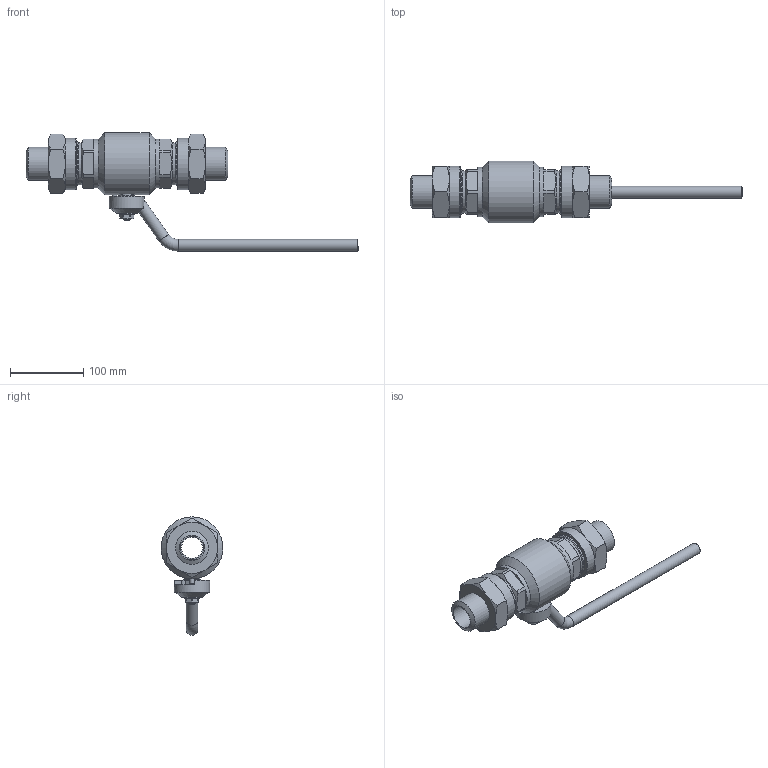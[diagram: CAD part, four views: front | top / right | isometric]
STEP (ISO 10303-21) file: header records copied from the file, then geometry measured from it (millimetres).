
FILE_DESCRIPTION(('STEP AP203'), '1');
FILE_NAME('ZARD 032.250.30.P.stp', '2013-12-06T06:30:21', ('User'), ('Computer'), 'ASCON STEP Converter 1.3', 'Kompas 3D', '');
FILE_SCHEMA(('CONFIG_CONTROL_DESIGN','SUPPORT_RESOURCE_SCHEMA'));
Length unit declared in the file: millimetre
Products named in the file (1): 78
Bounding box: 452.51 x 84.5 x 161.25 mm (x, y, z)
Volume: 803866.1 mm3; surface area: 145725.8 mm2
Topology: 1 solids, 10 shells, 264 faces, 602 edges, 376 vertices
Faces by surface type: plane 120, cylinder 73, cone 57, torus 12, bspline 2
Full cylindrical faces by diameter (mm): 6 x2, 10 x2, 16 x3, 16.1 x1, 21.8 x1, 22 x2, 24 x1, 24.3 x1, 24.5 x1, 29 x2, 32 x2, 45 x2, 48 x1, 50 x2, 57.6 x2, 57.835 x2, 58.4 x1, 60 x2, 67 x2, 70 x2, 84.5 x1
Entity records: 10476 total; most frequent: CARTESIAN_POINT 4419, DIRECTION 1288, ORIENTED_EDGE 1204, EDGE_CURVE 602, AXIS2_PLACEMENT_3D 524, VERTEX_POINT 376, EDGE_LOOP 296, ADVANCED_FACE 264
